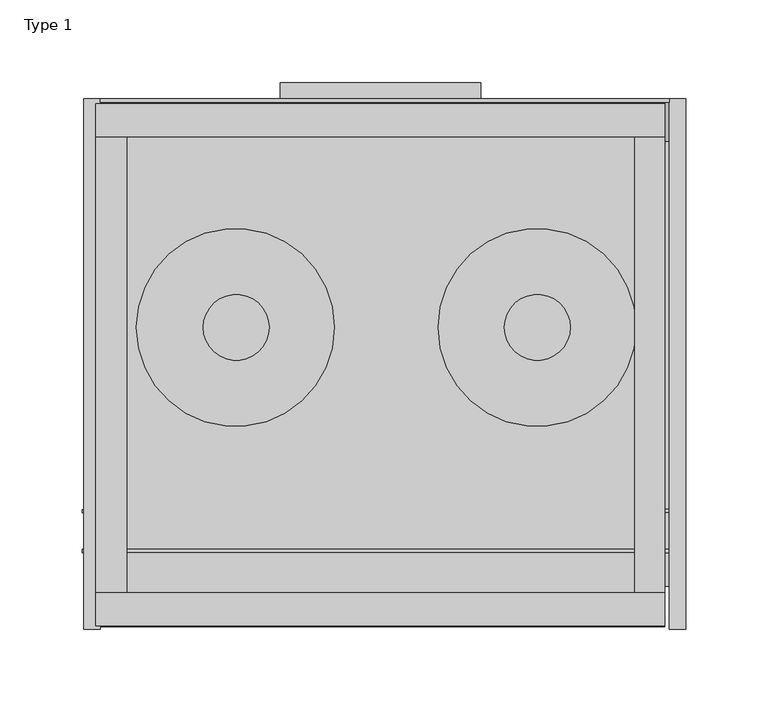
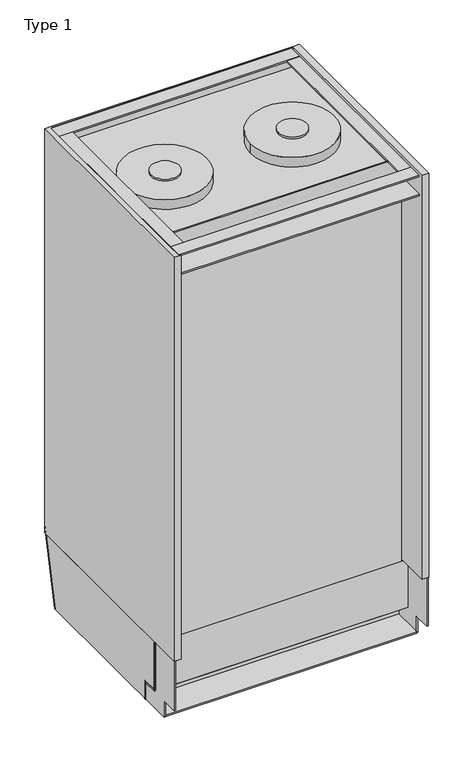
"""IFC4 building model written with IfcOpenShell, lengths in millimetres: proxy geometry, UE001 - Carel_Humidifier_Wallmount_BIM_Model : Type 1."""

import ifcopenshell
import ifcopenshell.guid

model = None  # the IFC model being written
_history = None  # IfcOwnerHistory: only IFC2X3 demands one
_inside = {}  # id of a spatial element -> (the spatial element, [elements in it])
_under = {}  # id of a project, library or spatial element -> (it, [spatial elements below it])
_declared = {}  # id of a project -> (the project, [libraries it declares])
_typed = {}  # id of a type object -> (the type object, [elements of that type])
_made_of = {}  # id of a material, layer set ... -> (it, [elements and type objects made of it])


def new_model(schema):
    """Start an empty IFC model of exactly this schema.

    Asked for "IFC4X3", IfcOpenShell would pick the latest addendum, in which some entities
    have other attributes; the version numbers below select the first issue.
    IFC2X3 requires an IfcOwnerHistory on every rooted entity: one is made here for all.
    """
    global model, _history
    if schema == "IFC4X3":
        model = ifcopenshell.file(schema_version=(4, 3, 0, 0))
    else:
        model = ifcopenshell.file(schema=schema)
    _inside.clear()
    _under.clear()
    _declared.clear()
    _typed.clear()
    _made_of.clear()
    _history = None
    if model.schema == "IFC2X3":
        org = make("IfcOrganization", Name="unknown")
        user = make(
            "IfcPersonAndOrganization",
            ThePerson=make("IfcPerson", FamilyName="unknown"),
            TheOrganization=org,
        )
        app = make(
            "IfcApplication",
            ApplicationDeveloper=org,
            Version="unknown",
            ApplicationFullName="unknown",
            ApplicationIdentifier="unknown",
        )
        _history = make(
            "IfcOwnerHistory",
            OwningUser=user,
            OwningApplication=app,
            ChangeAction="ADDED",
            CreationDate=0,
        )
    return model


def make(cls, **values):
    """One entity of the class cls with the attributes given. An attribute that is None is left unset."""
    return model.create_entity(
        cls, **{name: value for name, value in values.items() if value is not None}
    )


def rooted(cls, **values):
    """An entity with a GlobalId (a new one), such as an element, a storey or a relation."""
    return make(cls, GlobalId=ifcopenshell.guid.new(), OwnerHistory=_history, **values)


def si_unit(unit_type, name, prefix=None):
    """IfcSIUnit, for example si_unit("LENGTHUNIT", "METRE", prefix="MILLI")."""
    return make("IfcSIUnit", UnitType=unit_type, Prefix=prefix, Name=name)


def assignment(units):
    """IfcUnitAssignment: the units of a project."""
    return None if units is None else make("IfcUnitAssignment", Units=units)


def point(xyz):
    """IfcCartesianPoint."""
    return None if xyz is None else make("IfcCartesianPoint", Coordinates=xyz)


def direction(xyz):
    """IfcDirection."""
    return None if xyz is None else make("IfcDirection", DirectionRatios=xyz)


def frame(location, z_axis=None, x_axis=None):
    """IfcAxis2Placement3D, a coordinate frame: its origin and axes. An axis left out is left unset."""
    return make(
        "IfcAxis2Placement3D",
        Location=point(location),
        Axis=direction(z_axis),
        RefDirection=direction(x_axis),
    )


def frame_2d(location, x_axis=None):
    """IfcAxis2Placement2D, a coordinate frame in the plane: its origin and x axis."""
    return make(
        "IfcAxis2Placement2D", Location=point(location), RefDirection=direction(x_axis)
    )


def origin():
    """The frame at (0, 0, 0) with its axes left unset."""
    return frame((0.0, 0.0, 0.0))


def place(relative_to, where):
    """IfcLocalPlacement: puts the frame where relative to a parent placement (None: the world)."""
    return make(
        "IfcLocalPlacement", PlacementRelTo=relative_to, RelativePlacement=where
    )


def context(
    kind, dimensions, precision=None, world=None, true_north=None, identifier=None
):
    """IfcGeometricRepresentationContext, for example the 3D "Model" context."""
    return make(
        "IfcGeometricRepresentationContext",
        ContextIdentifier=identifier,
        ContextType=kind,
        CoordinateSpaceDimension=dimensions,
        Precision=precision,
        WorldCoordinateSystem=world,
        TrueNorth=true_north,
    )


def project(units=None, contexts=None):
    """IfcProject with its units and contexts."""
    return rooted(
        "IfcProject",
        Name="project",
        RepresentationContexts=contexts,
        UnitsInContext=assignment(units),
    )


def spatial(cls, under=None, at=None, **own):
    """A site, building, storey or space (cls), placed at a placement, below another one or the project."""
    s = rooted(cls, ObjectPlacement=at, **own)
    if under is not None:
        _under.setdefault(under.id(), (under, []))[1].append(s)
    return s


def polyline(points):
    """IfcPolyline through the points."""
    return make("IfcPolyline", Points=[point(p) for p in points])


def circle_curve(where, radius):
    """IfcCircle in the frame where."""
    return make("IfcCircle", Position=where, Radius=radius)


def ellipse_curve(where, semi_axis1, semi_axis2):
    """IfcEllipse in the frame where."""
    return make(
        "IfcEllipse", Position=where, SemiAxis1=semi_axis1, SemiAxis2=semi_axis2
    )


def trimmed(basis, trim1, trim2, sense, master):
    """IfcTrimmedCurve: the piece of a basis curve between two trims."""
    return make(
        "IfcTrimmedCurve",
        BasisCurve=basis,
        Trim1=trim1,
        Trim2=trim2,
        SenseAgreement=sense,
        MasterRepresentation=master,
    )


def segment(curve, same_sense, transition):
    """IfcCompositeCurveSegment."""
    return make(
        "IfcCompositeCurveSegment",
        Transition=transition,
        SameSense=same_sense,
        ParentCurve=curve,
    )


def composite_curve(segments, self_intersect=None):
    """IfcCompositeCurve: segments joined end to end."""
    return make("IfcCompositeCurve", Segments=segments, SelfIntersect=self_intersect)


def outline(outer, holes=None, kind="AREA"):
    """IfcArbitraryClosedProfileDef: a profile drawn as a closed curve; with holes, ...WithVoids."""
    if holes is None:
        return make("IfcArbitraryClosedProfileDef", ProfileType=kind, OuterCurve=outer)
    return make(
        "IfcArbitraryProfileDefWithVoids",
        ProfileType=kind,
        OuterCurve=outer,
        InnerCurves=holes,
    )


def extrude(swept, where, along, depth):
    """IfcExtrudedAreaSolid: the profile swept, set in the frame where, extruded along a direction by depth."""
    return make(
        "IfcExtrudedAreaSolid",
        SweptArea=swept,
        Position=where,
        ExtrudedDirection=direction(along),
        Depth=depth,
    )


def shape(context_of_items, identifier, shape_type, items):
    """IfcShapeRepresentation: the items that make up one representation, for example the "Body"."""
    return make(
        "IfcShapeRepresentation",
        ContextOfItems=context_of_items,
        RepresentationIdentifier=identifier,
        RepresentationType=shape_type,
        Items=items,
    )


def source(mapping_origin, context_of_items, identifier, shape_type, items):
    """IfcRepresentationMap: a shape defined once, which mapped items show again and again."""
    return make(
        "IfcRepresentationMap",
        MappingOrigin=mapping_origin,
        MappedRepresentation=shape(context_of_items, identifier, shape_type, items),
    )


def transform(
    local_origin,
    x_axis=None,
    y_axis=None,
    z_axis=None,
    scale=None,
    scale2=None,
    scale3=None,
    uniform=True,
):
    """IfcCartesianTransformationOperator3D, or its non-uniform kind. x_axis, y_axis, z_axis: its Axis1, 2, 3."""
    if uniform:
        return make(
            "IfcCartesianTransformationOperator3D",
            Axis1=direction(x_axis),
            Axis2=direction(y_axis),
            LocalOrigin=point(local_origin),
            Scale=scale,
            Axis3=direction(z_axis),
        )
    return make(
        "IfcCartesianTransformationOperator3DnonUniform",
        Axis1=direction(x_axis),
        Axis2=direction(y_axis),
        LocalOrigin=point(local_origin),
        Scale=scale,
        Axis3=direction(z_axis),
        Scale2=scale2,
        Scale3=scale3,
    )


def mapped(mapping_source, mapping_target):
    """IfcMappedItem: shows the shape of a source again, moved by a transform."""
    return make(
        "IfcMappedItem", MappingSource=mapping_source, MappingTarget=mapping_target
    )


def made_of(thing, what):
    """Note that an element or type object is made of a material, layer set ...; save() writes the relation."""
    if what is not None:
        _made_of.setdefault(what.id(), (what, []))[1].append(thing)
    return thing


def element(
    cls,
    number,
    at=None,
    inside=None,
    cuts=None,
    type_object=None,
    material=None,
    context=None,
    identifier="Body",
    shape_type=None,
    held_by="IfcProductDefinitionShape",
    body=None,
    shapes=None,
    **own,
):
    """One element of the class cls, such as IfcWall. Its Tag is "e" and its number.

    at: its placement. inside: the storey or other place that contains it. cuts: it is an
    opening in that element (IfcRelVoidsElement). A single representation is given by context,
    identifier, shape_type and body (its items); several are given by shapes. held_by: the class
    of the entity that holds the representations. save() writes the other relations.
    """
    e = rooted(cls, Tag="e%d" % number, ObjectPlacement=at, **own)
    if body is not None:
        shapes = [shape(context, identifier, shape_type, body)]
    if shapes is not None:
        e.Representation = make(held_by, Representations=shapes)
    if inside is not None:
        _inside.setdefault(inside.id(), (inside, []))[1].append(e)
    if cuts is not None:
        rooted(
            "IfcRelVoidsElement", RelatingBuildingElement=cuts, RelatedOpeningElement=e
        )
    if type_object is not None:
        _typed.setdefault(type_object.id(), (type_object, []))[1].append(e)
    return made_of(e, material)


def aggregate(whole, parts):
    """IfcRelAggregates: a whole, such as a stair, and the parts it consists of."""
    return rooted("IfcRelAggregates", RelatingObject=whole, RelatedObjects=parts)


def save(model, path):
    """Write the relations noted so far, then the file.

    IfcRelAggregates (storeys below a building ...), IfcRelContainedInSpatialStructure (elements
    in a storey), IfcRelDefinesByType, IfcRelAssociatesMaterial and IfcRelDeclares: one each for
    every whole, place, type object, material and project.
    """
    for whole, parts in _under.values():
        aggregate(whole, parts)
    for where, things in _inside.values():
        rooted(
            "IfcRelContainedInSpatialStructure",
            RelatedElements=things,
            RelatingStructure=where,
        )
    for kind, things in _typed.values():
        rooted("IfcRelDefinesByType", RelatedObjects=things, RelatingType=kind)
    for what, things in _made_of.values():
        rooted("IfcRelAssociatesMaterial", RelatedObjects=things, RelatingMaterial=what)
    for by, libraries in _declared.values():
        rooted("IfcRelDeclares", RelatingContext=by, RelatedDefinitions=libraries)
    model.write(path)


def plane_surface(at):
    """IfcPlane: the flat surface through the origin of the frame at, square to its z axis."""
    return make("IfcPlane", Position=at)


def extruded_surface(curve, direction_of_extrusion, depth):
    """IfcSurfaceOfLinearExtrusion: the curve pushed along a direction by depth."""
    return make(
        "IfcSurfaceOfLinearExtrusion",
        SweptCurve=make("IfcArbitraryOpenProfileDef", ProfileType="CURVE", Curve=curve),
        ExtrudedDirection=direction(direction_of_extrusion),
        Depth=depth,
    )


def advanced_brep(points, edges, surfaces, faces):
    """IfcAdvancedBrep: a solid bounded by faces that lie on surfaces and meet in shared edges.

    An edge is (start, end): straight between two places in points (the first is 0);
    or (start, end, curve); or (start, end, curve, False) where it runs against its curve.
    A face is (place in surfaces, loops), or (place, loops, False) where it looks against
    its surface's normal. A loop lists edges by number (the first is 1), with a minus sign
    where the edge is run from its end to its start. The first loop is the outer one.
    """
    corners = [point(p) for p in points]
    vertices = [make("IfcVertexPoint", VertexGeometry=c) for c in corners]
    made = []
    for start, end, *more in edges:
        made.append(
            make(
                "IfcEdgeCurve",
                EdgeStart=vertices[start],
                EdgeEnd=vertices[end],
                EdgeGeometry=more[0] if more else make("IfcPolyline", Points=[corners[start], corners[end]]),
                SameSense=more[1] if len(more) > 1 else True,
            )
        )
    hull = []
    for where, loops, *sense in faces:
        bounds = []
        for j, loop in enumerate(loops):
            ring = [make("IfcOrientedEdge", EdgeElement=made[abs(k) - 1], Orientation=k > 0) for k in loop]
            bounds.append(
                make(
                    "IfcFaceOuterBound" if j == 0 else "IfcFaceBound",
                    Bound=make("IfcEdgeLoop", EdgeList=ring),
                    Orientation=True,
                )
            )
        hull.append(make("IfcAdvancedFace", Bounds=bounds, FaceSurface=surfaces[where], SameSense=sense[0] if sense else True))
    return make("IfcAdvancedBrep", Outer=make("IfcClosedShell", CfsFaces=hull))


def type_1_617d67d4(model_context):
    return source(origin(), model_context, "Body", "SolidModel", [
        extrude(outline(composite_curve([segment(trimmed(circle_curve(frame_2d((-90.9720559, 211.426212)), 20.0), [point((-110.9720559, 211.426212))], [point((-70.9720559, 211.426212))], False, "CARTESIAN"), True, "CONTINUOUS"), segment(trimmed(circle_curve(frame_2d((-90.9720559, 211.426212)), 20.0), [point((-70.9720559, 211.426212))], [point((-110.9720559, 211.426212))], False, "CARTESIAN"), True, "CONTINUOUS")], self_intersect=False)), frame((0.0, 0.0, 1098.1445814), z_axis=(0.0, 0.0, 1.0), x_axis=(1.0, 0.0, 0.0)), (0.0, 0.0, 1.0), 2.8183678),
        extrude(outline(composite_curve([segment(trimmed(circle_curve(frame_2d((91.6156471, 211.426212)), 20.0), [point((71.6156471, 211.426212))], [point((111.6156471, 211.426212))], False, "CARTESIAN"), True, "CONTINUOUS"), segment(trimmed(circle_curve(frame_2d((91.6156471, 211.426212)), 20.0), [point((111.6156471, 211.426212))], [point((71.6156471, 211.426212))], False, "CARTESIAN"), True, "CONTINUOUS")], self_intersect=False)), frame((0.0, 0.0, 1098.1445814), z_axis=(0.0, 0.0, 1.0), x_axis=(1.0, 0.0, 0.0)), (0.0, 0.0, 1.0), 2.8183678),
        extrude(outline(composite_curve([segment(trimmed(circle_curve(frame_2d((91.4514251, 211.426212)), 60.0), [point((151.4514251, 211.426212))], [point((31.4514251, 211.426212))], False, "CARTESIAN"), True, "CONTINUOUS"), segment(trimmed(circle_curve(frame_2d((91.4514251, 211.426212)), 60.0), [point((31.4514251, 211.426212))], [point((151.4514251, 211.426212))], False, "CARTESIAN"), True, "CONTINUOUS")], self_intersect=False)), frame((0.0, 0.0, 1083.4905184), z_axis=(0.0, 0.0, 1.0), x_axis=(1.0, 0.0, 0.0)), (0.0, 0.0, 1.0), 14.6540629),
        extrude(outline(composite_curve([segment(trimmed(circle_curve(frame_2d((-91.4514251, 211.426212)), 60.0), [point((-151.4514251, 211.426212))], [point((-31.4514251, 211.426212))], False, "CARTESIAN"), True, "CONTINUOUS"), segment(trimmed(circle_curve(frame_2d((-91.4514251, 211.426212)), 60.0), [point((-31.4514251, 211.426212))], [point((-151.4514251, 211.426212))], False, "CARTESIAN"), True, "CONTINUOUS")], self_intersect=False)), frame((0.0, 0.0, 1083.4905184), z_axis=(0.0, 0.0, 1.0), x_axis=(1.0, 0.0, 0.0)), (0.0, 0.0, 1.0), 14.6540629),
        extrude(outline(polyline([(350.1569067, 453.8519826), (350.1569067, 447.030123), (339.1148659, 443.0111489), (340.7599805, 450.4317811), (350.1569067, 453.8519826)])), frame((-150.8801784, 0.0, 0.0), z_axis=(1.0, 0.0, 0.0), x_axis=(0.0, 1.0, 0.0)), (0.0, 0.0, 1.0), 20.8809272),
        extrude(outline(polyline([(0.0, -3.8339423), (0.0, 0.0), (27.228015, 0.0), (27.228015, -3.8339423), (0.0, -3.8339423)])), frame((-154.1935427, 336.4162981, 430.8386958), z_axis=(0.0, 0.2164396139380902, 0.9762960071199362), x_axis=(1.0, 0.0, 0.0)), (0.0, 0.0, 1.0), 27.0024194),
        extrude(outline(polyline([(-181.4793267, 324.0980987), (179.42978, 324.0980987), (179.42978, 54.6773855), (-181.4793267, 54.6773855), (-181.4793267, 324.0980987)])), frame((0.0, 0.0, 400.0), z_axis=(0.0, 0.0, 1.0), x_axis=(1.0, 0.0, 0.0)), (0.0, 0.0, 1.0), 2.0),
        extrude(outline(composite_curve([segment(polyline([(519.4577065, 46.4496427), (519.4577065, -53.9639815)]), True, "CONTINUOUS"), segment(trimmed(circle_curve(frame_2d((499.4577065, -14.649782)), 44.1090272), [point((519.4577065, -53.9639815))], [point((479.4577065, -53.9639815))], False, "CARTESIAN"), True, "CONTINUOUS"), segment(polyline([(479.4577065, -53.9639815), (479.4577065, 46.4496427)]), True, "CONTINUOUS"), segment(trimmed(circle_curve(frame_2d((499.4577065, 7.1354432)), 44.1090272), [point((479.4577065, 46.4496427))], [point((519.4577065, 46.4496427))], False, "CARTESIAN"), True, "CONTINUOUS")], self_intersect=False)), frame((0.0, 350.0, 0.0), z_axis=(0.0, 1.0, 0.0), x_axis=(0.0, 0.0, 1.0)), (0.0, 0.0, 1.0), 9.9673582),
        extrude(outline(polyline([(529.4577065, 57.1707378), (529.4577065, -64.1734154), (469.4577065, -64.1734154), (469.4577065, 57.1707378), (529.4577065, 57.1707378)]), holes=[composite_curve([segment(trimmed(circle_curve(frame_2d((499.4577065, 7.1354432)), 49.1090272), [point((524.4577065, 49.4047767))], [point((474.4577065, 49.4047767))], True, "CARTESIAN"), True, "CONTINUOUS"), segment(polyline([(474.4577065, 49.4047767), (474.4577065, -56.9191155)]), True, "CONTINUOUS"), segment(trimmed(circle_curve(frame_2d((499.4577065, -14.649782)), 49.1090272), [point((474.4577065, -56.9191155))], [point((524.4577065, -56.9191155))], True, "CARTESIAN"), True, "CONTINUOUS"), segment(polyline([(524.4577065, -56.9191155), (524.4577065, 49.4047767)]), True, "CONTINUOUS")], self_intersect=False)]), frame((0.0, 350.0, 0.0), z_axis=(0.0, 1.0, 0.0), x_axis=(0.0, 0.0, 1.0)), (0.0, 0.0, 1.0), 9.9673582),
        extrude(outline(polyline([(168.7469486, 347.651872), (168.7469486, 29.8641482), (-176.2612875, 29.8641482), (-176.2612875, 347.651872), (168.7469486, 347.651872)])), frame((0.0, 0.0, 1081.4750398), z_axis=(0.0, 0.0, 1.0), x_axis=(1.0, 0.0, 0.0)), (0.0, 0.0, 1.0), 2.0154786),
        extrude(outline(polyline([(-176.2612875, 327.036335), (-176.2612875, 347.036335), (168.7469486, 347.036335), (168.7469486, 327.036335), (-176.2612875, 327.036335)])), frame((0.0, 0.0, 1109.8966395), z_axis=(0.0, 0.0, 1.0), x_axis=(1.0, 0.0, 0.0)), (0.0, 0.0, 1.0), 2.1033605),
        extrude(outline(polyline([(-176.2612875, 30.536335), (-176.2612875, 50.536335), (168.7469486, 50.536335), (168.7469486, 30.536335), (-176.2612875, 30.536335)])), frame((0.0, 0.0, 1109.8966395), z_axis=(0.0, 0.0, 1.0), x_axis=(1.0, 0.0, 0.0)), (0.0, 0.0, 1.0), 2.1033605),
        extrude(outline(polyline([(-157.3180842, 50.536335), (-176.2612875, 50.536335), (-176.2612875, 327.036335), (-157.3180842, 327.036335), (-157.3180842, 50.536335)])), frame((0.0, 0.0, 1104.1981623), z_axis=(0.0, 0.0, 1.0), x_axis=(1.0, 0.0, 0.0)), (0.0, 0.0, 1.0), 7.8083825),
        extrude(outline(polyline([(150.60469, 50.536335), (150.60469, 327.036335), (168.7469486, 327.036335), (168.7469486, 50.536335), (150.60469, 50.536335)])), frame((0.0, 0.0, 1109.8966395), z_axis=(0.0, 0.0, 1.0), x_axis=(1.0, 0.0, 0.0)), (0.0, 0.0, 1.0), 2.0244427),
        extrude(outline(polyline([(176.68893, 100.9740846), (176.68893, 99.0602683), (-184.2032688, 99.0602683), (-184.2032688, 100.9740846), (176.68893, 100.9740846)])), frame((0.0, 0.0, 400.0), z_axis=(0.0, 0.0, 1.0), x_axis=(1.0, 0.0, 0.0)), (0.0, 0.0, 1.0), 2.0),
        extrude(outline(polyline([(179.42978, 99.0602683), (179.42978, 76.9953596), (-183.5288733, 76.9953596), (-183.5288733, 99.0602683), (179.42978, 99.0602683)])), frame((0.0, 0.0, 425.3090696), z_axis=(0.0, 0.0, 1.0), x_axis=(1.0, 0.0, 0.0)), (0.0, 0.0, 1.0), 2.0817444),
        advanced_brep(
        [(171.4793447, 347.9636447, 500.0), (171.4793447, 347.9636447, 1112.0), (-173.5288914, 347.9636447, 1112.0), (-173.5288914, 347.9636447, 500.0), (31.4711086, 347.9636447, 1037.0), (-33.5288914, 347.9636447, 1037.0), (171.4793447, 349.9999955, 500.0), (-173.5288914, 349.9999955, 500.0), (-173.5288914, 349.9999955, 1112.0), (171.4793447, 349.9999955, 1112.0), (31.4711086, 349.9999955, 1037.0), (-33.5288914, 349.9999955, 1037.0)],
        [
            (0, 1),
            (1, 2),
            (2, 3),
            (3, 0),
            (4, 5, ellipse_curve(frame((-1.0288914, 347.9636447, 1037.0), z_axis=(0.0, 1.0, 0.0), x_axis=(-1.0, 0.0, 0.0)), 32.5, 10.0)),
            (5, 4, ellipse_curve(frame((-1.0288914, 347.9636447, 1037.0), z_axis=(0.0, 1.0, 0.0), x_axis=(1.0, 0.0, 0.0)), 32.5, 10.0)),
            (6, 7),
            (7, 8),
            (8, 9),
            (9, 6),
            (10, 11, ellipse_curve(frame((-1.0288914, 349.9999955, 1037.0), z_axis=(0.0, -1.0, 0.0), x_axis=(1.0, 0.0, 0.0)), 32.5, 10.0)),
            (11, 10, ellipse_curve(frame((-1.0288914, 349.9999955, 1037.0), z_axis=(0.0, -1.0, 0.0), x_axis=(-1.0, 0.0, 0.0)), 32.5, 10.0)),
            (3, 7),
            (6, 0),
            (2, 8),
            (1, 9),
            (4, 10),
            (11, 5),
        ],
        [
            plane_surface(frame((171.4793447, 347.9636447, 601.0000128), z_axis=(0.0, -1.0, 0.0), x_axis=(0.0, 0.0, 1.0))),
            plane_surface(frame((171.4793447, 349.9999955, 601.0000128), z_axis=(0.0, 1.0, 0.0), x_axis=(0.0, 0.0, -1.0))),
            plane_surface(frame((-173.5288914, 347.9636447, 500.0), z_axis=(0.0, 0.0, -1.0), x_axis=(0.0, 1.0, 0.0))),
            plane_surface(frame((-173.5288914, 347.9636447, 1112.0), z_axis=(-1.0, 0.0, 0.0), x_axis=(0.0, 1.0, 0.0))),
            plane_surface(frame((171.4793447, 347.9636447, 1112.0), z_axis=(0.0, 0.0, 1.0), x_axis=(0.0, 1.0, 0.0))),
            plane_surface(frame((171.4793447, 347.9636447, 500.0), z_axis=(1.0, 0.0, 0.0), x_axis=(0.0, 1.0, 0.0))),
            extruded_surface(trimmed(ellipse_curve(frame((-1.0288914, 214.5363485, 1037.0), z_axis=(0.0, 1.0, 0.0), x_axis=(-1.0, 0.0, 0.0)), 32.5, 10.0), [point((31.4711086, 214.5363485, 1037.0))], [point((-33.5288914, 214.5363485, 1037.0))], True, "CARTESIAN"), (0.0, -2.036350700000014, 0.0), 2.036350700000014),
            extruded_surface(trimmed(ellipse_curve(frame((-1.0288914, 214.5363485, 1037.0), z_axis=(0.0, 1.0, 0.0), x_axis=(1.0, 0.0, 0.0)), 32.5, 10.0), [point((-33.5288914, 214.5363485, 1037.0))], [point((31.4711086, 214.5363485, 1037.0))], True, "CARTESIAN"), (0.0, -2.036350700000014, 0.0), 2.036350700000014),
        ],
        [
            (0, [[1, 2, 3, 4], [5, 6]]),
            (1, [[7, 8, 9, 10], [11, 12]]),
            (2, [[-4, 13, -7, 14]]),
            (3, [[-3, 15, -8, -13]]),
            (4, [[-2, 16, -9, -15]]),
            (5, [[-1, -14, -10, -16]]),
            (6, [[-5, 17, -12, 18]]),
            (7, [[-6, -18, -11, -17]]),
        ],
    ),
        advanced_brep(
        [(30.9036292, 347.9636447, 1037.0), (-33.0288914, 347.9636447, 1037.0), (30.9036292, 349.9999955, 1037.0), (-33.0288914, 349.9999955, 1037.0)],
        [
            (0, 1, ellipse_curve(frame((-1.0626311, 347.9636447, 1037.0), z_axis=(0.0, -1.0, 0.0), x_axis=(1.0, 0.0, 0.0)), 31.9662603, 9.5628849)),
            (1, 0, ellipse_curve(frame((-1.0626311, 347.9636447, 1037.0), z_axis=(0.0, -1.0, 0.0), x_axis=(-1.0, 0.0, 0.0)), 31.9662603, 9.4535919)),
            (2, 3, ellipse_curve(frame((-1.0626311, 349.9999955, 1037.0), z_axis=(0.0, 1.0, 0.0), x_axis=(-1.0, 0.0, 0.0)), 31.9662603, 9.4535919)),
            (3, 2, ellipse_curve(frame((-1.0626311, 349.9999955, 1037.0), z_axis=(0.0, 1.0, 0.0), x_axis=(1.0, 0.0, 0.0)), 31.9662603, 9.5628849)),
            (0, 2),
            (3, 1),
        ],
        [
            plane_surface(frame((171.4793447, 347.9636447, 601.0000128), z_axis=(0.0, -1.0, 0.0), x_axis=(0.0, 0.0, 1.0))),
            plane_surface(frame((171.4793447, 349.9999955, 601.0000128), z_axis=(0.0, 1.0, 0.0), x_axis=(0.0, 0.0, -1.0))),
            extruded_surface(trimmed(ellipse_curve(frame((-1.0626311, 214.5363485, 1037.0), z_axis=(0.0, -1.0, 0.0), x_axis=(1.0, 0.0, 0.0)), 31.9662603, 9.5628849), [point((30.9036292, 214.5363485, 1037.0))], [point((-33.0288914, 214.5363485, 1037.0))], True, "CARTESIAN"), (0.0, -2.036350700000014, 0.0), 2.036350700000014),
            extruded_surface(trimmed(ellipse_curve(frame((-1.0626311, 214.5363485, 1037.0), z_axis=(0.0, -1.0, 0.0), x_axis=(-1.0, 0.0, 0.0)), 31.9662603, 9.4535919), [point((-33.0288914, 214.5363485, 1037.0))], [point((30.9036292, 214.5363485, 1037.0))], True, "CARTESIAN"), (0.0, -2.036350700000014, 0.0), 2.036350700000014),
        ],
        [
            (0, [[1, 2]]),
            (1, [[3, 4]]),
            (2, [[-1, 5, -4, 6]]),
            (3, [[-2, -6, -3, -5]]),
        ],
    ),
        extrude(outline(polyline([(-176.2612875, 77.0363508), (168.7469486, 77.0363508), (168.7469486, 75.0), (-176.2612875, 75.0), (-176.2612875, 77.0363508)])), frame((0.0, 0.0, 500.0), z_axis=(0.0, 0.0, 1.0), x_axis=(1.0, 0.0, 0.0)), (0.0, 0.0, 1.0), 612.0),
        extrude(outline(polyline([(-184.2117227, 76.9953596), (178.7469306, 76.9953596), (178.7469306, 75.0), (-184.2117227, 75.0), (-184.2117227, 76.9953596)])), frame((0.0, 0.0, 427.3908139), z_axis=(0.0, 0.0, 1.0), x_axis=(1.0, 0.0, 0.0)), (0.0, 0.0, 1.0), 72.6091861),
        extrude(outline(polyline([(-183.5288733, 28.4999876), (-183.5288733, 350.0), (-173.5288914, 350.0), (-173.5288914, 28.4999876), (-183.5288733, 28.4999876)])), frame((0.0, 0.0, 500.0), z_axis=(0.0, 0.0, 1.0), x_axis=(1.0, 0.0, 0.0)), (0.0, 0.0, 1.0), 612.0),
        extrude(outline(polyline([(-183.5288733, 101.1773855), (181.4793267, 101.1773855), (181.4793267, 99.0602683), (-183.5288733, 99.0602683), (-183.5288733, 101.1773855)])), frame((0.0, 0.0, 400.0), z_axis=(0.0, 0.0, 1.0), x_axis=(1.0, 0.0, 0.0)), (0.0, 0.0, 1.0), 27.3908139),
        extrude(outline(polyline([(350.0364506, 510.7561389), (325.4824086, 400.0000128), (324.0980987, 400.0000128), (348.6521407, 510.7561389), (350.0364506, 510.7561389)])), frame((-183.5206798, 0.0, 0.0), z_axis=(1.0, 0.0, 0.0), x_axis=(0.0, 1.0, 0.0)), (0.0, 0.0, 1.0), 362.9335519),
        extrude(outline(polyline([(53.9, 400.0000128), (53.9, 425.4000128), (28.5, 425.4000128), (28.5, 500.0), (346.2675622, 500.0), (324.0980987, 400.0000128), (53.9, 400.0000128)])), frame((-183.5288733, 0.0, 0.0), z_axis=(1.0, 0.0, 0.0), x_axis=(0.0, 1.0, 0.0)), (0.0, 0.0, 1.0), 2.0495467),
        extrude(outline(polyline([(181.4793267, 350.0), (181.4793267, 28.4999876), (171.4793447, 28.4999876), (171.4793447, 350.0), (181.4793267, 350.0)])), frame((0.0, 0.0, 500.0), z_axis=(0.0, 0.0, 1.0), x_axis=(1.0, 0.0, 0.0)), (0.0, 0.0, 1.0), 612.0),
        extrude(outline(polyline([(55.2641482, 399.9090696), (55.2641482, 425.3090696), (29.8641482, 425.3090696), (29.8641482, 500.0), (347.651872, 500.0), (325.4622469, 399.9090696), (55.2641482, 399.9090696)])), frame((179.42978, 0.0, 0.0), z_axis=(1.0, 0.0, 0.0), x_axis=(0.0, 1.0, 0.0)), (0.0, 0.0, 1.0), 2.0495467),
    ])


if __name__ == "__main__":
    model = new_model("IFC4")
    model_context = context("Model", 3, world=origin())
    ifc_project = project(units=[si_unit("LENGTHUNIT", "METRE", prefix="MILLI")], contexts=[model_context])
    site = spatial("IfcSite", under=ifc_project)
    building = spatial("IfcBuilding", under=site)
    placement = place(None, origin())
    type_1_shape = type_1_617d67d4(model_context)
    element("IfcBuildingElementProxy", 1, Name="UE001 - Carel_Humidifier_Wallmount_BIM_Model : Type 1", ObjectType="UE001 - Carel_Humidifier_Wallmount_BIM_Model : Type 1", at=placement, inside=building, context=model_context, shape_type="MappedRepresentation", body=[
        mapped(type_1_shape, transform((0.0, 0.0, 0.0), x_axis=(1.0, 0.0, 0.0), y_axis=(0.0, 1.0, 0.0), z_axis=(0.0, 0.0, 1.0))),
    ])
    save(model, "model.ifc")
